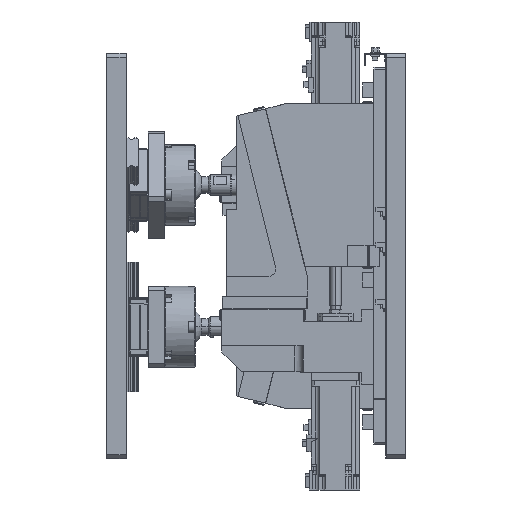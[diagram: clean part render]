
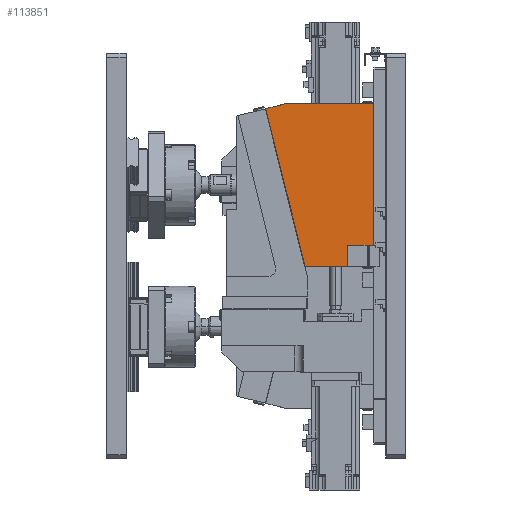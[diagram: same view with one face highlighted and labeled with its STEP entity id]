
A CAD part, left-side view. The second image highlights one B-rep face of the part: STEP entity #113851.
In plain terms, the highlighted planar face has unit normal (-1, 0, 0).
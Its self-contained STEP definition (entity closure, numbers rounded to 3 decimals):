
#455 = CARTESIAN_POINT ( 'NONE',  ( -206.554, 77., -12.5 ) ) ;
#1601 = EDGE_CURVE ( 'NONE', #93902, #48634, #5148, .T. ) ;
#3273 = ORIENTED_EDGE ( 'NONE', *, *, #45306, .T. ) ;
#5148 = LINE ( 'NONE', #115939, #73831 ) ;
#6645 = VERTEX_POINT ( 'NONE', #38832 ) ;
#10824 = VECTOR ( 'NONE', #41069, 1000. ) ;
#12033 = CARTESIAN_POINT ( 'NONE',  ( -206.554, 45., -12.5 ) ) ;
#14285 = ORIENTED_EDGE ( 'NONE', *, *, #20868, .T. ) ;
#14429 = CARTESIAN_POINT ( 'NONE',  ( -206.554, 178.022, 181.65 ) ) ;
#18906 = DIRECTION ( 'NONE',  ( 0., -1., 0. ) ) ;
#19854 = PLANE ( 'NONE',  #48621 ) ;
#20868 = EDGE_CURVE ( 'NONE', #59926, #103043, #63874, .T. ) ;
#24708 = VECTOR ( 'NONE', #87742, 1000. ) ;
#26916 = VERTEX_POINT ( 'NONE', #48766 ) ;
#32900 = LINE ( 'NONE', #105243, #24708 ) ;
#34390 = VECTOR ( 'NONE', #51746, 1000. ) ;
#38534 = VECTOR ( 'NONE', #18906, 1000. ) ;
#38832 = CARTESIAN_POINT ( 'NONE',  ( -206.554, 45., 187.5 ) ) ;
#38840 = EDGE_CURVE ( 'NONE', #42637, #26916, #56745, .T. ) ;
#41012 = CARTESIAN_POINT ( 'NONE',  ( -206.554, 124.515, -32.379 ) ) ;
#41069 = DIRECTION ( 'NONE',  ( 0., 0., 1. ) ) ;
#42637 = VERTEX_POINT ( 'NONE', #14429 ) ;
#45248 = VECTOR ( 'NONE', #45817, 1000. ) ;
#45306 = EDGE_CURVE ( 'NONE', #54245, #59926, #58587, .T. ) ;
#45817 = DIRECTION ( 'NONE',  ( 0., -1., 0. ) ) ;
#47781 = CARTESIAN_POINT ( 'NONE',  ( -206.554, 77., 13.5 ) ) ;
#48621 = AXIS2_PLACEMENT_3D ( 'NONE', #12033, #66808, #103585 ) ;
#48634 = VERTEX_POINT ( 'NONE', #88859 ) ;
#48766 = CARTESIAN_POINT ( 'NONE',  ( -206.554, 129.485, -12.5 ) ) ;
#51746 = DIRECTION ( 'NONE',  ( 0., 0., 1. ) ) ;
#51894 = DIRECTION ( 'NONE',  ( 0., 0., 1. ) ) ;
#53821 = CARTESIAN_POINT ( 'NONE',  ( -206.554, 45., -12.5 ) ) ;
#54245 = VERTEX_POINT ( 'NONE', #455 ) ;
#54310 = DIRECTION ( 'NONE',  ( 0., 0.97, -0.243 ) ) ;
#55668 = EDGE_LOOP ( 'NONE', ( #109386, #3273, #14285, #74271, #66222, #81298, #57312, #84792, #101140 ) ) ;
#56186 = LINE ( 'NONE', #53821, #38534 ) ;
#56745 = LINE ( 'NONE', #41012, #81635 ) ;
#57312 = ORIENTED_EDGE ( 'NONE', *, *, #95621, .T. ) ;
#58587 = LINE ( 'NONE', #60333, #10824 ) ;
#59926 = VERTEX_POINT ( 'NONE', #47781 ) ;
#60064 = CARTESIAN_POINT ( 'NONE',  ( -206.554, 53., -12.5 ) ) ;
#60333 = CARTESIAN_POINT ( 'NONE',  ( -206.554, 77., -17.5 ) ) ;
#62104 = CARTESIAN_POINT ( 'NONE',  ( -206.554, 53., -17.5 ) ) ;
#62749 = CARTESIAN_POINT ( 'NONE',  ( -206.554, 178.507, 181.529 ) ) ;
#63874 = LINE ( 'NONE', #118122, #45248 ) ;
#66222 = ORIENTED_EDGE ( 'NONE', *, *, #1601, .T. ) ;
#66808 = DIRECTION ( 'NONE',  ( 1., 0., 0. ) ) ;
#69041 = VECTOR ( 'NONE', #51894, 1000. ) ;
#73831 = VECTOR ( 'NONE', #116538, 1000. ) ;
#74271 = ORIENTED_EDGE ( 'NONE', *, *, #97749, .F. ) ;
#76622 = DIRECTION ( 'NONE',  ( 0., -0.243, -0.97 ) ) ;
#77242 = EDGE_CURVE ( 'NONE', #48634, #6645, #111213, .T. ) ;
#81298 = ORIENTED_EDGE ( 'NONE', *, *, #77242, .T. ) ;
#81635 = VECTOR ( 'NONE', #76622, 1000. ) ;
#84379 = VECTOR ( 'NONE', #54310, 1000. ) ;
#84792 = ORIENTED_EDGE ( 'NONE', *, *, #108791, .T. ) ;
#86670 = FACE_OUTER_BOUND ( 'NONE', #55668, .T. ) ;
#87742 = DIRECTION ( 'NONE',  ( 0., 1., 0. ) ) ;
#88859 = CARTESIAN_POINT ( 'NONE',  ( -206.554, 45., -12.5 ) ) ;
#89894 = LINE ( 'NONE', #62749, #84379 ) ;
#90954 = CARTESIAN_POINT ( 'NONE',  ( -206.554, 154.621, 187.5 ) ) ;
#93902 = VERTEX_POINT ( 'NONE', #60064 ) ;
#95621 = EDGE_CURVE ( 'NONE', #6645, #113706, #32900, .T. ) ;
#97554 = CARTESIAN_POINT ( 'NONE',  ( -206.554, 45., 187.5 ) ) ;
#97749 = EDGE_CURVE ( 'NONE', #93902, #103043, #116965, .T. ) ;
#98038 = CARTESIAN_POINT ( 'NONE',  ( -206.554, 53., 13.5 ) ) ;
#98817 = EDGE_CURVE ( 'NONE', #26916, #54245, #56186, .T. ) ;
#101140 = ORIENTED_EDGE ( 'NONE', *, *, #38840, .T. ) ;
#103043 = VERTEX_POINT ( 'NONE', #98038 ) ;
#103585 = DIRECTION ( 'NONE',  ( 0., 0., -1. ) ) ;
#105243 = CARTESIAN_POINT ( 'NONE',  ( -206.554, 154.621, 187.5 ) ) ;
#108791 = EDGE_CURVE ( 'NONE', #113706, #42637, #89894, .T. ) ;
#109386 = ORIENTED_EDGE ( 'NONE', *, *, #98817, .T. ) ;
#111213 = LINE ( 'NONE', #97554, #34390 ) ;
#113706 = VERTEX_POINT ( 'NONE', #90954 ) ;
#113851 = ADVANCED_FACE ( 'NONE', ( #86670 ), #19854, .F. ) ;
#115939 = CARTESIAN_POINT ( 'NONE',  ( -206.554, 45., -12.5 ) ) ;
#116538 = DIRECTION ( 'NONE',  ( 0., -1., 0. ) ) ;
#116965 = LINE ( 'NONE', #62104, #69041 ) ;
#118122 = CARTESIAN_POINT ( 'NONE',  ( -206.554, 77., 13.5 ) ) ;
